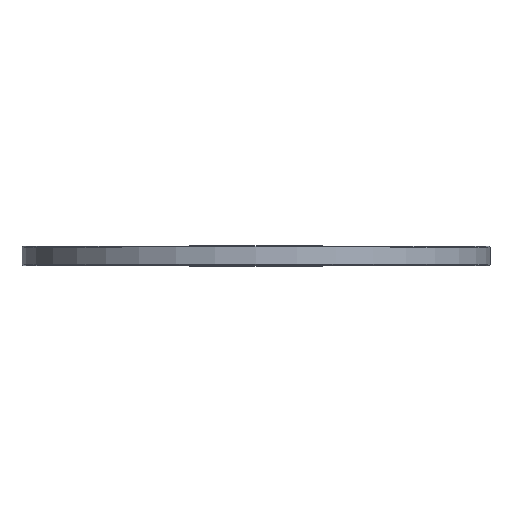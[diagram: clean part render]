
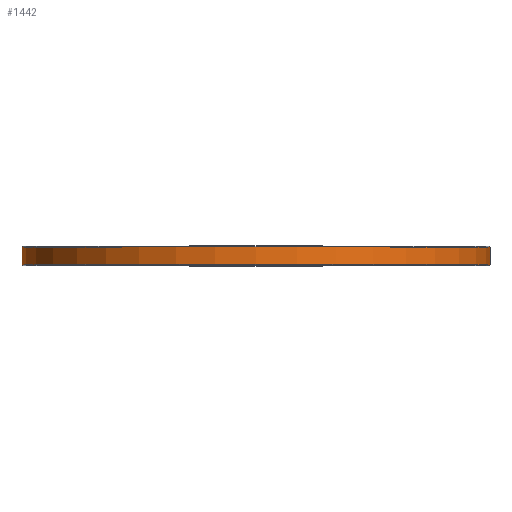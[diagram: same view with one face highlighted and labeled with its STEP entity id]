
A CAD part, top view. The second image highlights one B-rep face of the part: STEP entity #1442.
In plain terms, the highlighted cylindrical face has radius 742.5 mm (diameter 1485 mm), a full revolution.
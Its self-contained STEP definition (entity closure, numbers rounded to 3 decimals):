
#278=ORIENTED_EDGE('',*,*,#488,.T.);
#279=ORIENTED_EDGE('',*,*,#489,.T.);
#488=EDGE_CURVE('',#624,#624,#760,.F.);
#489=EDGE_CURVE('',#625,#625,#761,.T.);
#624=VERTEX_POINT('',#2536);
#625=VERTEX_POINT('',#2538);
#760=CIRCLE('',#1686,742.5);
#761=CIRCLE('',#1687,742.5);
#958=EDGE_LOOP('',(#278));
#959=EDGE_LOOP('',(#279));
#1230=FACE_BOUND('',#958,.T.);
#1231=FACE_BOUND('',#959,.T.);
#1346=CYLINDRICAL_SURFACE('',#1685,742.5);
#1442=ADVANCED_FACE('',(#1230,#1231),#1346,.T.);
#1685=AXIS2_PLACEMENT_3D('',#2534,#2147,#2148);
#1686=AXIS2_PLACEMENT_3D('',#2535,#2149,#2150);
#1687=AXIS2_PLACEMENT_3D('',#2537,#2151,#2152);
#2147=DIRECTION('',(0.,-1.,0.));
#2148=DIRECTION('',(0.,0.,-1.));
#2149=DIRECTION('',(0.,1.,0.));
#2150=DIRECTION('',(0.,0.,1.));
#2151=DIRECTION('',(0.,1.,0.));
#2152=DIRECTION('',(0.,0.,1.));
#2534=CARTESIAN_POINT('',(0.,61.,0.));
#2535=CARTESIAN_POINT('',(0.,58.,0.));
#2536=CARTESIAN_POINT('',(0.,58.,742.5));
#2537=CARTESIAN_POINT('',(0.,3.,0.));
#2538=CARTESIAN_POINT('',(0.,3.,742.5));
